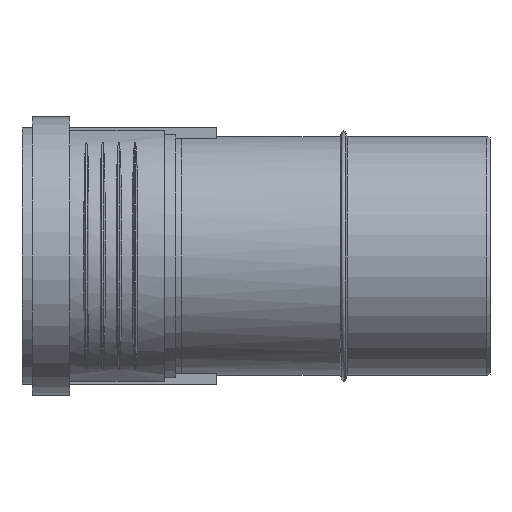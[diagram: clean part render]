
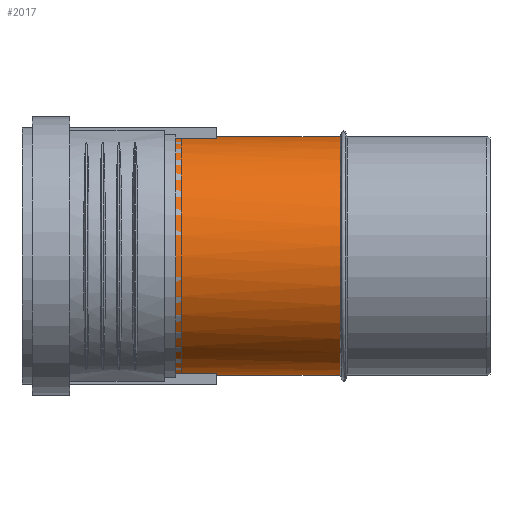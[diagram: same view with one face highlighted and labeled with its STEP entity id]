
A CAD part, left-side view. The second image highlights one B-rep face of the part: STEP entity #2017.
In plain terms, the highlighted cylindrical face has radius 62.6 mm (diameter 125.2 mm), a partial arc.
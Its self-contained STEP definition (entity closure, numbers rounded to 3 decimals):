
#260=CYLINDRICAL_SURFACE($,#2156,62.6);
#492=B_SPLINE_CURVE_WITH_KNOTS($,3,(#3026,#3027,#3028,#3029,#3030,#3031,
#3032,#3033,#3034,#3035,#3036,#3037,#3038,#3039,#3040,#3041),
 .UNSPECIFIED.,.F.,.F.,(4,2,2,2,2,2,2,4),(22.53,23.274,
24.16,25.045,25.934,26.823,27.712,
28.6),.UNSPECIFIED.);
#493=B_SPLINE_CURVE_WITH_KNOTS($,3,(#3043,#3044,#3045,#3046,#3047,#3048,
#3049,#3050,#3051,#3052,#3053,#3054,#3055,#3056,#3057,#3058),
 .UNSPECIFIED.,.F.,.F.,(4,2,2,2,2,2,2,4),(0.,0.91,1.82,
2.73,3.64,4.531,5.422,5.811),
 .UNSPECIFIED.);
#494=B_SPLINE_CURVE_WITH_KNOTS($,3,(#3061,#3062,#3063,#3064,#3065,#3066,
#3067,#3068,#3069,#3070,#3071,#3072,#3073,#3074,#3075,#3076,#3077,#3078,
#3079,#3080,#3081,#3082,#3083,#3084,#3085,#3086,#3087,#3088,#3089,#3090),
 .UNSPECIFIED.,.F.,.F.,(4,2,2,2,2,2,2,2,2,2,2,2,2,2,4),(8.595,
8.976,9.862,10.748,11.663,12.578,
13.492,14.407,15.296,16.185,17.073,
17.962,18.848,19.733,20.477),
 .UNSPECIFIED.);
#598=FACE_OUTER_BOUND($,#715,.T.);
#715=EDGE_LOOP($,(#1476,#1477,#1478,#1479,#1480));
#890=CIRCLE($,#2154,62.6);
#891=CIRCLE($,#2157,62.6);
#989=VERTEX_POINT($,#3008);
#990=VERTEX_POINT($,#3015);
#991=VERTEX_POINT($,#3025);
#992=VERTEX_POINT($,#3042);
#993=VERTEX_POINT($,#3059);
#1196=EDGE_CURVE($,#989,#990,#890,.T.);
#1197=EDGE_CURVE($,#990,#991,#492,.T.);
#1198=EDGE_CURVE($,#991,#992,#493,.T.);
#1199=EDGE_CURVE($,#992,#993,#891,.T.);
#1200=EDGE_CURVE($,#993,#989,#494,.T.);
#1476=ORIENTED_EDGE($,*,*,#1196,.T.);
#1477=ORIENTED_EDGE($,*,*,#1197,.T.);
#1478=ORIENTED_EDGE($,*,*,#1198,.T.);
#1479=ORIENTED_EDGE($,*,*,#1199,.T.);
#1480=ORIENTED_EDGE($,*,*,#1200,.T.);
#2017=ADVANCED_FACE($,(#598),#260,.T.);
#2154=AXIS2_PLACEMENT_3D($,#3022,#2396,#2397);
#2156=AXIS2_PLACEMENT_3D($,#3024,#2400,#2401);
#2157=AXIS2_PLACEMENT_3D($,#3060,#2402,#2403);
#2396=DIRECTION('center_axis',(0.,1.,0.));
#2397=DIRECTION('ref_axis',(1.,0.,0.));
#2400=DIRECTION('center_axis',(0.,1.,0.));
#2401=DIRECTION('ref_axis',(1.,0.,0.));
#2402=DIRECTION('center_axis',(0.,-1.,0.));
#2403=DIRECTION('ref_axis',(1.,0.,0.));
#3008=CARTESIAN_POINT('',(61.737,78.5,-10.361));
#3015=CARTESIAN_POINT('',(61.737,78.5,10.361));
#3022=CARTESIAN_POINT('Origin',(0.,78.5,0.));
#3024=CARTESIAN_POINT('Origin',(0.,0.,0.));
#3025=CARTESIAN_POINT('',(43.414,121.635,45.1));
#3026=CARTESIAN_POINT('Ctrl Pts',(61.737,78.5,10.361));
#3027=CARTESIAN_POINT('Ctrl Pts',(61.32,79.069,12.845));
#3028=CARTESIAN_POINT('Ctrl Pts',(60.755,79.845,15.283));
#3029=CARTESIAN_POINT('Ctrl Pts',(59.256,81.949,20.392));
#3030=CARTESIAN_POINT('Ctrl Pts',(58.272,83.357,23.025));
#3031=CARTESIAN_POINT('Ctrl Pts',(56.122,86.569,27.858));
#3032=CARTESIAN_POINT('Ctrl Pts',(54.958,88.372,30.058));
#3033=CARTESIAN_POINT('Ctrl Pts',(52.647,92.186,33.943));
#3034=CARTESIAN_POINT('Ctrl Pts',(51.412,94.34,35.772));
#3035=CARTESIAN_POINT('Ctrl Pts',(48.997,99.049,39.015));
#3036=CARTESIAN_POINT('Ctrl Pts',(47.818,101.603,40.43));
#3037=CARTESIAN_POINT('Ctrl Pts',(45.773,106.997,42.731));
#3038=CARTESIAN_POINT('Ctrl Pts',(44.908,109.844,43.62));
#3039=CARTESIAN_POINT('Ctrl Pts',(43.726,115.681,44.805));
#3040=CARTESIAN_POINT('Ctrl Pts',(43.414,118.673,45.1));
#3041=CARTESIAN_POINT('Ctrl Pts',(43.414,121.635,45.1));
#3042=CARTESIAN_POINT('',(61.03,165.34,13.931));
#3043=CARTESIAN_POINT('Ctrl Pts',(43.414,121.635,45.1));
#3044=CARTESIAN_POINT('Ctrl Pts',(43.414,124.669,45.1));
#3045=CARTESIAN_POINT('Ctrl Pts',(43.74,127.728,44.791));
#3046=CARTESIAN_POINT('Ctrl Pts',(44.947,133.71,43.58));
#3047=CARTESIAN_POINT('Ctrl Pts',(45.823,136.634,42.678));
#3048=CARTESIAN_POINT('Ctrl Pts',(47.88,142.201,40.357));
#3049=CARTESIAN_POINT('Ctrl Pts',(49.06,144.848,38.936));
#3050=CARTESIAN_POINT('Ctrl Pts',(51.476,149.75,35.681));
#3051=CARTESIAN_POINT('Ctrl Pts',(52.71,152.004,33.847));
#3052=CARTESIAN_POINT('Ctrl Pts',(55.002,155.979,29.976));
#3053=CARTESIAN_POINT('Ctrl Pts',(56.15,157.857,27.8));
#3054=CARTESIAN_POINT('Ctrl Pts',(58.277,161.218,23.01));
#3055=CARTESIAN_POINT('Ctrl Pts',(59.255,162.703,20.395));
#3056=CARTESIAN_POINT('Ctrl Pts',(60.42,164.442,16.424));
#3057=CARTESIAN_POINT('Ctrl Pts',(60.743,164.919,15.188));
#3058=CARTESIAN_POINT('Ctrl Pts',(61.03,165.34,13.931));
#3059=CARTESIAN_POINT('',(61.03,165.34,-13.931));
#3060=CARTESIAN_POINT('Origin',(0.,165.34,0.));
#3061=CARTESIAN_POINT('Ctrl Pts',(61.03,165.34,-13.931));
#3062=CARTESIAN_POINT('Ctrl Pts',(60.749,164.928,-15.161));
#3063=CARTESIAN_POINT('Ctrl Pts',(60.434,164.462,-16.371));
#3064=CARTESIAN_POINT('Ctrl Pts',(59.284,162.748,-20.306));
#3065=CARTESIAN_POINT('Ctrl Pts',(58.314,161.276,-22.913));
#3066=CARTESIAN_POINT('Ctrl Pts',(56.203,157.943,-27.691));
#3067=CARTESIAN_POINT('Ctrl Pts',(55.063,156.081,-29.862));
#3068=CARTESIAN_POINT('Ctrl Pts',(52.774,152.12,-33.748));
#3069=CARTESIAN_POINT('Ctrl Pts',(51.533,149.86,-35.598));
#3070=CARTESIAN_POINT('Ctrl Pts',(49.104,144.944,-38.881));
#3071=CARTESIAN_POINT('Ctrl Pts',(47.916,142.288,-40.315));
#3072=CARTESIAN_POINT('Ctrl Pts',(45.844,136.701,-42.656));
#3073=CARTESIAN_POINT('Ctrl Pts',(44.961,133.765,-43.566));
#3074=CARTESIAN_POINT('Ctrl Pts',(43.744,127.757,-44.788));
#3075=CARTESIAN_POINT('Ctrl Pts',(43.414,124.684,-45.1));
#3076=CARTESIAN_POINT('Ctrl Pts',(43.414,118.673,-45.1));
#3077=CARTESIAN_POINT('Ctrl Pts',(43.726,115.681,-44.805));
#3078=CARTESIAN_POINT('Ctrl Pts',(44.908,109.844,-43.62));
#3079=CARTESIAN_POINT('Ctrl Pts',(45.773,106.997,-42.731));
#3080=CARTESIAN_POINT('Ctrl Pts',(47.818,101.603,-40.43));
#3081=CARTESIAN_POINT('Ctrl Pts',(48.997,99.049,-39.015));
#3082=CARTESIAN_POINT('Ctrl Pts',(51.412,94.34,-35.772));
#3083=CARTESIAN_POINT('Ctrl Pts',(52.647,92.186,-33.943));
#3084=CARTESIAN_POINT('Ctrl Pts',(54.958,88.372,-30.058));
#3085=CARTESIAN_POINT('Ctrl Pts',(56.122,86.569,-27.858));
#3086=CARTESIAN_POINT('Ctrl Pts',(58.272,83.357,-23.025));
#3087=CARTESIAN_POINT('Ctrl Pts',(59.256,81.949,-20.392));
#3088=CARTESIAN_POINT('Ctrl Pts',(60.755,79.845,-15.283));
#3089=CARTESIAN_POINT('Ctrl Pts',(61.32,79.069,-12.845));
#3090=CARTESIAN_POINT('Ctrl Pts',(61.737,78.5,-10.361));
